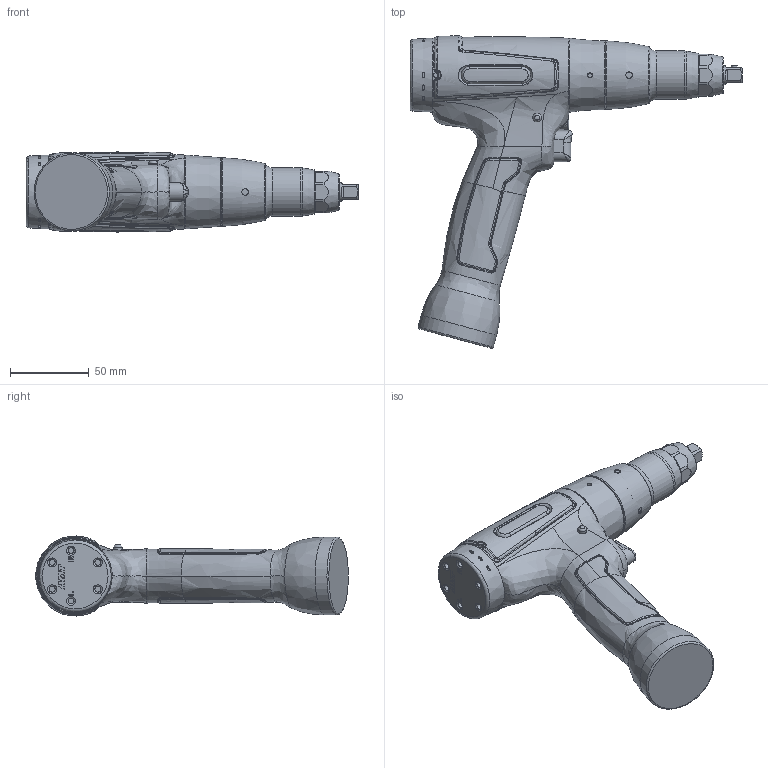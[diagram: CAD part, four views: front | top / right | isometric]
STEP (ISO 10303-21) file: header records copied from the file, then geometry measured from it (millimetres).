
FILE_DESCRIPTION (( 'STEP AP214' ), '1' );
FILE_NAME ('70058391_PSX1015ZV38.STEP', '2017-04-27T08:42:33', ( 'admin' ), ( '' ), 'SwSTEP 2.0', 'SolidWorks 2014', '' );
FILE_SCHEMA (( 'AUTOMOTIVE_DESIGN' ));
Length unit declared in the file: millimetre
Products named in the file (4): 70058391_PSX1015ZV38; 70058290; 70086935; 70058298
Assembly tree (3 placements, depth 2):
  70058391_PSX1015ZV38
    70058298
    70086935
    70058290
Bounding box: 210.8 x 198.5 x 50.81 mm (x, y, z)
Volume: 502033 mm3; surface area: 69974.1 mm2
Topology: 3 solids, 3 shells, 873 faces, 2247 edges, 1427 vertices
Faces by surface type: bspline 331, plane 287, cylinder 162, cone 68, torus 23, sphere 2
Full cylindrical faces by diameter (mm): 2.8 x4, 3 x3, 3.7 x6, 3.8 x1, 4.1 x4, 5.5 x1, 7 x2, 7.4 x1, 8.27 x1, 12 x2, 13 x1, 15 x1, 24 x1, 25.5 x1, 27 x1, 30.5 x1, 30.8 x1, 31.3 x1, 35 x2, 38.5 x1, 39 x1, 40 x1, 40.2 x1, 49.5 x1
Entity records: 62628 total; most frequent: CARTESIAN_POINT 41306, ORIENTED_EDGE 4246, DIRECTION 2855, EDGE_CURVE 2123, VERTEX_POINT 1383, AXIS2_PLACEMENT_3D 1037, EDGE_LOOP 1006, FACE_OUTER_BOUND 926
